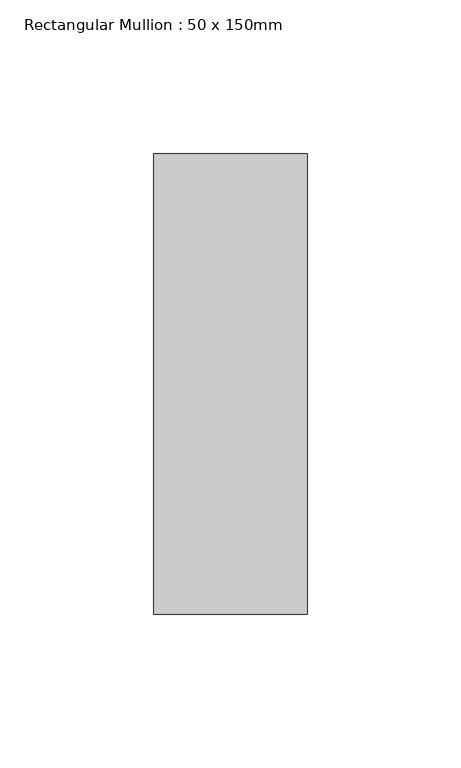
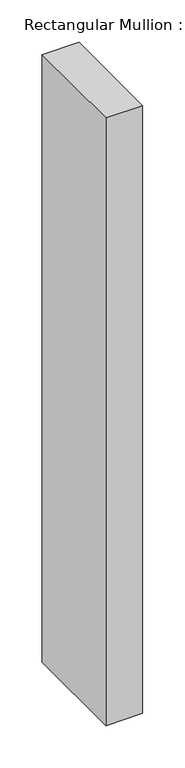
"""IFC4 building model written with IfcOpenShell, lengths in millimetres: member geometry, Rectangular Mullion : 50 x 150mm."""

from ifc_helpers import new_model, si_unit, frame, origin, place, context, project, spatial, polyline, outline, extrude, source, transform, mapped, element, save


def rectangular_mullion_50_x_150mm_1075d9c1(model_context):
    return source(origin(), model_context, "Body", "SweptSolid", [
        extrude(outline(polyline([(25.0, 75.0), (25.0, -75.0), (-25.0, -75.0), (-25.0, 75.0), (25.0, 75.0)])), frame((0.0, 0.0, -875.0), z_axis=(0.0, 0.0, 1.0), x_axis=(1.0, 0.0, 0.0)), (0.0, 0.0, 1.0), 875.0),
    ])


if __name__ == "__main__":
    model = new_model("IFC4")
    model_context = context("Model", 3, world=origin())
    ifc_project = project(units=[si_unit("LENGTHUNIT", "METRE", prefix="MILLI")], contexts=[model_context])
    site = spatial("IfcSite", under=ifc_project)
    building = spatial("IfcBuilding", under=site)
    placement = place(None, origin())
    rectangular_mullion_50_x_150mm_shape = rectangular_mullion_50_x_150mm_1075d9c1(model_context)
    element("IfcMember", 1, ObjectType="Rectangular Mullion : 50 x 150mm", at=placement, inside=building, context=model_context, shape_type="MappedRepresentation", body=[
        mapped(rectangular_mullion_50_x_150mm_shape, transform((0.0, 0.0, 0.0), x_axis=(1.0, 0.0, 0.0), y_axis=(0.0, 1.0, 0.0), z_axis=(0.0, 0.0, 1.0))),
    ])
    save(model, "model.ifc")
